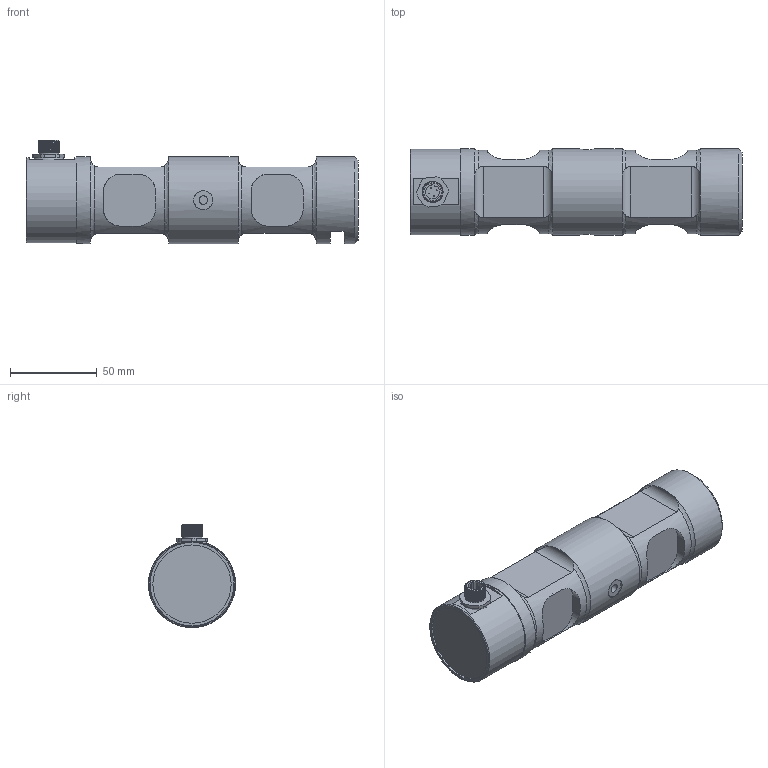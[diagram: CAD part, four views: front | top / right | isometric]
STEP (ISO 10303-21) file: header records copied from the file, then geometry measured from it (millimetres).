
FILE_DESCRIPTION(/* description */ ('Alibre Inc.'),/* implementation_level */ '2;1');
FILE_NAME(/* name */ 'export0',/* time_stamp */ '2016-02-02T14:31:36+01:00',/* author */ (''),/* organization */ (''),/* preprocessor_version */ 'ST-DEVELOPER v14',/* originating_system */ 'Alibre',/* authorisation */ '');
FILE_SCHEMA (('CONFIG_CONTROL_DESIGN'));
Length unit declared in the file: centimetre
Products named in the file (6): ID_1; ID_2; ID_3; ID_4
Bounding box: 191 x 50 x 59.32 mm (x, y, z)
Volume: 322117.7 mm3; surface area: 39398.6 mm2
Topology: 8 solids, 8 shells, 198 faces, 445 edges, 279 vertices
Faces by surface type: plane 88, cylinder 72, bspline 23, torus 9, cone 6
Full cylindrical faces by diameter (mm): 0.5 x8, 4.917 x2, 8 x2, 10 x4, 11 x2, 11.5 x1, 13 x1, 14.376 x1, 45 x1, 49 x1, 50 x3
Entity records: 18115 total; most frequent: CARTESIAN_POINT 13919, ORIENTED_EDGE 798, DIRECTION 546, EDGE_CURVE 394, VERTEX_POINT 263, FACE_BOUND 256, EDGE_LOOP 255, AXIS2_PLACEMENT_3D 246
